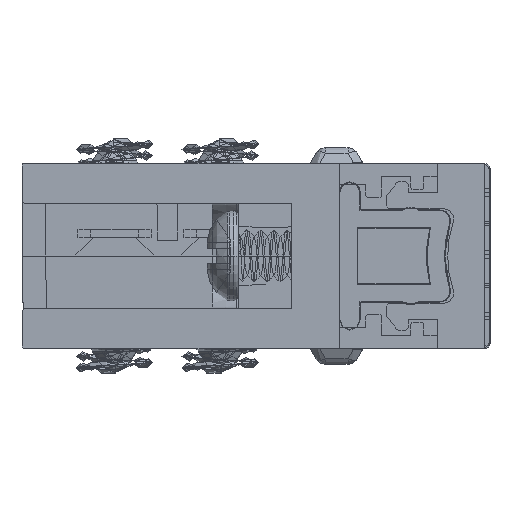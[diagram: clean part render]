
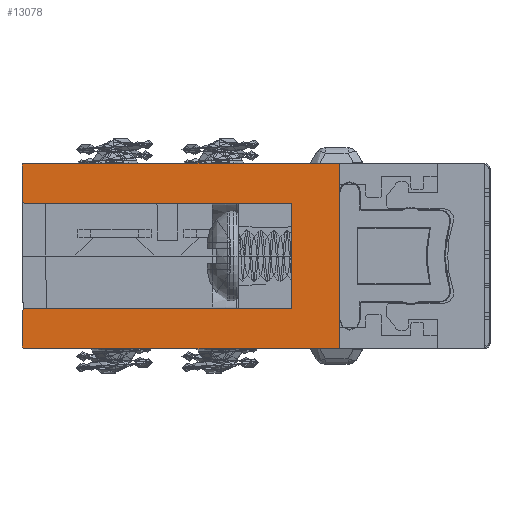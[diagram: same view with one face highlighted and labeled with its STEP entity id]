
A CAD part, left-side view. The second image highlights one B-rep face of the part: STEP entity #13078.
In plain terms, the highlighted planar face has unit normal (-1, 0, 0).
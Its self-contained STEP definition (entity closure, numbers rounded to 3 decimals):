
#512 = CIRCLE ( 'NONE', #171090, 0.1 ) ;
#3121 = DIRECTION ( 'NONE',  ( -1., 0., 0. ) ) ;
#5981 = DIRECTION ( 'NONE',  ( 0., 1., 0. ) ) ;
#9006 = VECTOR ( 'NONE', #264857, 1000. ) ;
#9157 = LINE ( 'NONE', #265268, #299036 ) ;
#9429 = ORIENTED_EDGE ( 'NONE', *, *, #216348, .T. ) ;
#9880 = LINE ( 'NONE', #199904, #60668 ) ;
#12579 = VERTEX_POINT ( 'NONE', #279395 ) ;
#13078 = ADVANCED_FACE ( 'NONE', ( #60744 ), #62295, .F. ) ;
#15209 = CARTESIAN_POINT ( 'NONE',  ( -450., 5.5, -2. ) ) ;
#23021 = DIRECTION ( 'NONE',  ( 0., 1., 0. ) ) ;
#25370 = AXIS2_PLACEMENT_3D ( 'NONE', #56103, #291739, #34095 ) ;
#26522 = DIRECTION ( 'NONE',  ( 0., 0., 1. ) ) ;
#26901 = ORIENTED_EDGE ( 'NONE', *, *, #184297, .F. ) ;
#28167 = EDGE_CURVE ( 'NONE', #12579, #70557, #277183, .T. ) ;
#28854 = EDGE_CURVE ( 'NONE', #61223, #35088, #65260, .T. ) ;
#33428 = DIRECTION ( 'NONE',  ( 0., -1., 0. ) ) ;
#34095 = DIRECTION ( 'NONE',  ( 0., 0., 1. ) ) ;
#35088 = VERTEX_POINT ( 'NONE', #271631 ) ;
#35539 = EDGE_LOOP ( 'NONE', ( #44200, #171340, #215319, #47503, #266841, #235874, #94278, #279002, #63451, #123946, #26901, #9429 ) ) ;
#41545 = VERTEX_POINT ( 'NONE', #67105 ) ;
#44200 = ORIENTED_EDGE ( 'NONE', *, *, #28167, .F. ) ;
#47503 = ORIENTED_EDGE ( 'NONE', *, *, #28854, .T. ) ;
#49096 = CARTESIAN_POINT ( 'NONE',  ( -450., 15.7, 2.1 ) ) ;
#50638 = DIRECTION ( 'NONE',  ( 0., 0., 1. ) ) ;
#55368 = CIRCLE ( 'NONE', #25370, 0.1 ) ;
#56103 = CARTESIAN_POINT ( 'NONE',  ( -450., 15.6, 3.4 ) ) ;
#56968 = CARTESIAN_POINT ( 'NONE',  ( -450., 15.7, -2.1 ) ) ;
#58287 = VECTOR ( 'NONE', #111518, 1000. ) ;
#60668 = VECTOR ( 'NONE', #33428, 1000. ) ;
#60744 = FACE_OUTER_BOUND ( 'NONE', #35539, .T. ) ;
#61223 = VERTEX_POINT ( 'NONE', #92119 ) ;
#61977 = CARTESIAN_POINT ( 'NONE',  ( -450., 15.6, 3.5 ) ) ;
#62295 = PLANE ( 'NONE',  #98455 ) ;
#63451 = ORIENTED_EDGE ( 'NONE', *, *, #124369, .F. ) ;
#65260 = CIRCLE ( 'NONE', #240849, 0.1 ) ;
#66462 = EDGE_CURVE ( 'NONE', #195941, #163580, #66953, .T. ) ;
#66953 = LINE ( 'NONE', #15209, #205649 ) ;
#67105 = CARTESIAN_POINT ( 'NONE',  ( -450., 3.7, -3.5 ) ) ;
#68594 = DIRECTION ( 'NONE',  ( -1., 0., 0. ) ) ;
#70557 = VERTEX_POINT ( 'NONE', #245770 ) ;
#86764 = VERTEX_POINT ( 'NONE', #245657 ) ;
#88955 = DIRECTION ( 'NONE',  ( 0., 1., 0. ) ) ;
#92119 = CARTESIAN_POINT ( 'NONE',  ( -450., 15.7, 2.1 ) ) ;
#94278 = ORIENTED_EDGE ( 'NONE', *, *, #268283, .F. ) ;
#98455 = AXIS2_PLACEMENT_3D ( 'NONE', #136071, #231899, #88955 ) ;
#108643 = VECTOR ( 'NONE', #261298, 1000. ) ;
#109164 = EDGE_CURVE ( 'NONE', #12579, #109548, #55368, .T. ) ;
#109548 = VERTEX_POINT ( 'NONE', #112135 ) ;
#111518 = DIRECTION ( 'NONE',  ( 0., 1., 0. ) ) ;
#112135 = CARTESIAN_POINT ( 'NONE',  ( -450., 15.7, 3.4 ) ) ;
#115047 = VERTEX_POINT ( 'NONE', #221584 ) ;
#120199 = EDGE_CURVE ( 'NONE', #61223, #109548, #162657, .T. ) ;
#122449 = CARTESIAN_POINT ( 'NONE',  ( -450., 15.6, -2.1 ) ) ;
#123946 = ORIENTED_EDGE ( 'NONE', *, *, #300283, .T. ) ;
#124369 = EDGE_CURVE ( 'NONE', #86764, #290785, #189062, .T. ) ;
#136071 = CARTESIAN_POINT ( 'NONE',  ( -450., 0., 0. ) ) ;
#137127 = VECTOR ( 'NONE', #50638, 1000. ) ;
#145306 = VECTOR ( 'NONE', #157767, 1000. ) ;
#145795 = CARTESIAN_POINT ( 'NONE',  ( -450., 15.6, -3.4 ) ) ;
#157767 = DIRECTION ( 'NONE',  ( 0., -1., 0. ) ) ;
#162657 = LINE ( 'NONE', #49096, #137127 ) ;
#163580 = VERTEX_POINT ( 'NONE', #194982 ) ;
#165468 = CARTESIAN_POINT ( 'NONE',  ( -450., 15.7, -3.4 ) ) ;
#167514 = LINE ( 'NONE', #191081, #9006 ) ;
#171090 = AXIS2_PLACEMENT_3D ( 'NONE', #145795, #240082, #5981 ) ;
#171147 = DIRECTION ( 'NONE',  ( 0., 0., 1. ) ) ;
#171340 = ORIENTED_EDGE ( 'NONE', *, *, #109164, .T. ) ;
#178728 = CARTESIAN_POINT ( 'NONE',  ( -450., 15.6, -3.5 ) ) ;
#184297 = EDGE_CURVE ( 'NONE', #41545, #258998, #201160, .T. ) ;
#189062 = LINE ( 'NONE', #165468, #108643 ) ;
#191081 = CARTESIAN_POINT ( 'NONE',  ( -450., 5.5, 2. ) ) ;
#194982 = CARTESIAN_POINT ( 'NONE',  ( -450., 5.5, 2. ) ) ;
#195941 = VERTEX_POINT ( 'NONE', #244338 ) ;
#197966 = AXIS2_PLACEMENT_3D ( 'NONE', #122449, #3121, #171147 ) ;
#199904 = CARTESIAN_POINT ( 'NONE',  ( -450., 15.6, -2. ) ) ;
#201160 = LINE ( 'NONE', #296937, #58287 ) ;
#205649 = VECTOR ( 'NONE', #302605, 1000. ) ;
#215319 = ORIENTED_EDGE ( 'NONE', *, *, #120199, .F. ) ;
#216348 = EDGE_CURVE ( 'NONE', #41545, #70557, #9157, .T. ) ;
#221584 = CARTESIAN_POINT ( 'NONE',  ( -450., 15.6, -2. ) ) ;
#231899 = DIRECTION ( 'NONE',  ( 1., 0., 0. ) ) ;
#232153 = EDGE_CURVE ( 'NONE', #115047, #290785, #288320, .T. ) ;
#235874 = ORIENTED_EDGE ( 'NONE', *, *, #66462, .F. ) ;
#240082 = DIRECTION ( 'NONE',  ( -1., 0., 0. ) ) ;
#240849 = AXIS2_PLACEMENT_3D ( 'NONE', #304234, #68594, #23021 ) ;
#244338 = CARTESIAN_POINT ( 'NONE',  ( -450., 5.5, -2. ) ) ;
#245657 = CARTESIAN_POINT ( 'NONE',  ( -450., 15.7, -3.4 ) ) ;
#245770 = CARTESIAN_POINT ( 'NONE',  ( -450., 3.7, 3.5 ) ) ;
#258998 = VERTEX_POINT ( 'NONE', #178728 ) ;
#261298 = DIRECTION ( 'NONE',  ( 0., 0., 1. ) ) ;
#264857 = DIRECTION ( 'NONE',  ( 0., 1., 0. ) ) ;
#265268 = CARTESIAN_POINT ( 'NONE',  ( -450., 3.7, -3.5 ) ) ;
#266841 = ORIENTED_EDGE ( 'NONE', *, *, #310715, .F. ) ;
#268283 = EDGE_CURVE ( 'NONE', #115047, #195941, #9880, .T. ) ;
#271631 = CARTESIAN_POINT ( 'NONE',  ( -450., 15.6, 2. ) ) ;
#277183 = LINE ( 'NONE', #61977, #145306 ) ;
#279002 = ORIENTED_EDGE ( 'NONE', *, *, #232153, .T. ) ;
#279395 = CARTESIAN_POINT ( 'NONE',  ( -450., 15.6, 3.5 ) ) ;
#288320 = CIRCLE ( 'NONE', #197966, 0.1 ) ;
#290785 = VERTEX_POINT ( 'NONE', #56968 ) ;
#291739 = DIRECTION ( 'NONE',  ( -1., 0., 0. ) ) ;
#296937 = CARTESIAN_POINT ( 'NONE',  ( -450., 3.7, -3.5 ) ) ;
#299036 = VECTOR ( 'NONE', #26522, 1000. ) ;
#300283 = EDGE_CURVE ( 'NONE', #86764, #258998, #512, .T. ) ;
#302605 = DIRECTION ( 'NONE',  ( 0., 0., 1. ) ) ;
#304234 = CARTESIAN_POINT ( 'NONE',  ( -450., 15.6, 2.1 ) ) ;
#310715 = EDGE_CURVE ( 'NONE', #163580, #35088, #167514, .T. ) ;
